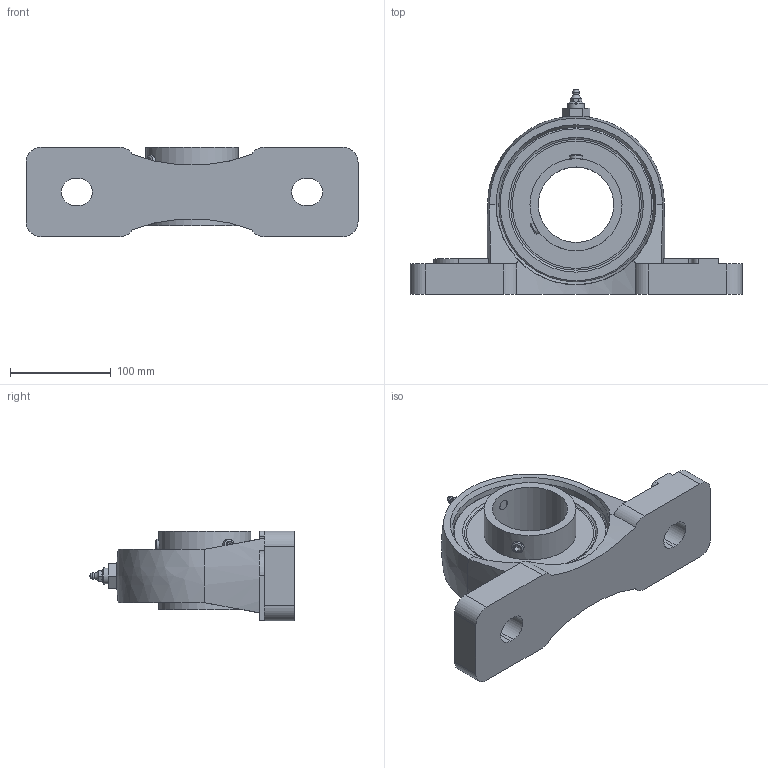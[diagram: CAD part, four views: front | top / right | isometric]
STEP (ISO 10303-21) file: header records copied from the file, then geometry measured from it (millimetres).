
FILE_DESCRIPTION((''),'2;1');
FILE_NAME('\\Ts-tgl068\J-Cad-D-BASE\00.3DCADデータ作成フォルダ\01.ピロー形\UCEP200\UCEP215.stp','2014-04-18T09:42:47',('btec_1106_2'),(''),'Autodesk Inventor 2012','Autodesk Inventor 2012','');
FILE_SCHEMA(('AUTOMOTIVE_DESIGN { 1 0 10303 214 1 1 1 1 }'));
Length unit declared in the file: millimetre
Products named in the file (7): UCEP200; EP215; AU110-3; EC215; シリーズUC [番手=215 ul]; M16X2; G1
Assembly tree (6 placements, depth 2):
  UCEP200
    EP215
    AU110-3
    EC215
    シリーズUC [番手=215 ul]
    M16X2
    G1
Bounding box: 330 x 203.29 x 89 mm (x, y, z)
Volume: 1514800.6 mm3; surface area: 231293.2 mm2
Topology: 6 solids, 6 shells, 167 faces, 411 edges, 264 vertices
Faces by surface type: plane 87, cylinder 46, cone 21, torus 8, sphere 4, bspline 1
Full cylindrical faces by diameter (mm): 4 x1, 8 x1, 8.566 x1, 9.728 x1, 12 x2, 13.835 x2, 16 x1, 75 x1, 91.5 x2, 154 x2
Entity records: 5209 total; most frequent: CARTESIAN_POINT 1176, DIRECTION 816, ORIENTED_EDGE 728, EDGE_CURVE 364, AXIS2_PLACEMENT_3D 319, VERTEX_POINT 252, EDGE_LOOP 226, VECTOR 178
